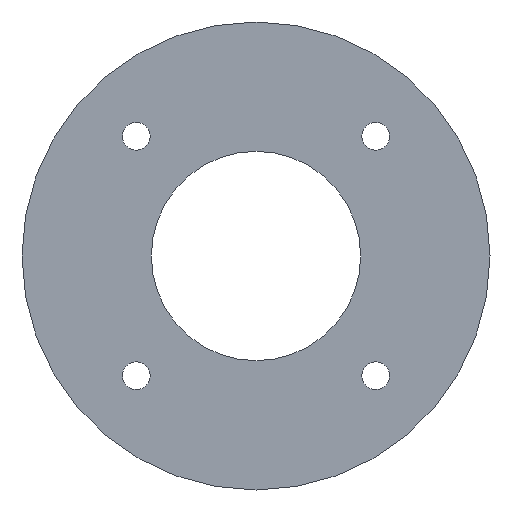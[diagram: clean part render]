
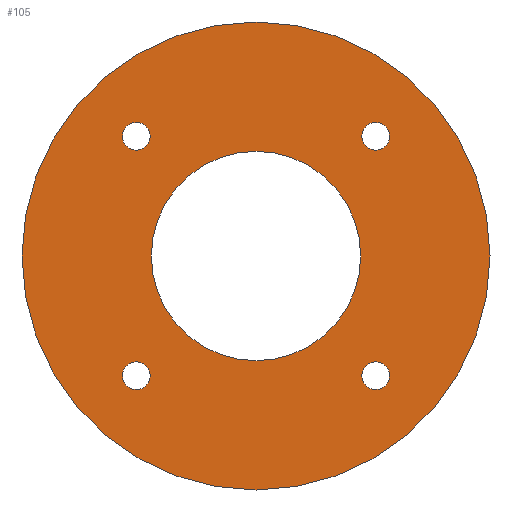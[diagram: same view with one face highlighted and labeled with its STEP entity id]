
A CAD part, left-side view. The second image highlights one B-rep face of the part: STEP entity #105.
In plain terms, the highlighted planar face has unit normal (-1, 0, 0).
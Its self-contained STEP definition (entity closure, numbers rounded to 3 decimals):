
#22 = VERTEX_POINT('',#23);
#23 = CARTESIAN_POINT('',(-7.5,76.,0.));
#32 = CYLINDRICAL_SURFACE('',#33,76.);
#33 = AXIS2_PLACEMENT_3D('',#34,#35,#36);
#34 = CARTESIAN_POINT('',(-7.5,0.,0.));
#35 = DIRECTION('',(-1.,-0.,-0.));
#36 = DIRECTION('',(0.,1.,0.));
#79 = EDGE_CURVE('',#22,#22,#80,.T.);
#80 = SURFACE_CURVE('',#81,(#86,#93),.PCURVE_S1.);
#81 = CIRCLE('',#82,76.);
#82 = AXIS2_PLACEMENT_3D('',#83,#84,#85);
#83 = CARTESIAN_POINT('',(-7.5,0.,0.));
#84 = DIRECTION('',(1.,0.,0.));
#85 = DIRECTION('',(0.,1.,0.));
#86 = PCURVE('',#32,#87);
#87 = DEFINITIONAL_REPRESENTATION('',(#88),#92);
#88 = LINE('',#89,#90);
#89 = CARTESIAN_POINT('',(-0.,0.));
#90 = VECTOR('',#91,1.);
#91 = DIRECTION('',(-1.,0.));
#92 = ( GEOMETRIC_REPRESENTATION_CONTEXT(2) 
PARAMETRIC_REPRESENTATION_CONTEXT() REPRESENTATION_CONTEXT('2D SPACE',''
  ) );
#93 = PCURVE('',#94,#99);
#94 = PLANE('',#95);
#95 = AXIS2_PLACEMENT_3D('',#96,#97,#98);
#96 = CARTESIAN_POINT('',(-7.5,0.,0.));
#97 = DIRECTION('',(1.,0.,0.));
#98 = DIRECTION('',(-0.,0.,1.));
#99 = DEFINITIONAL_REPRESENTATION('',(#100),#104);
#100 = CIRCLE('',#101,76.);
#101 = AXIS2_PLACEMENT_2D('',#102,#103);
#102 = CARTESIAN_POINT('',(0.,0.));
#103 = DIRECTION('',(0.,-1.));
#104 = ( GEOMETRIC_REPRESENTATION_CONTEXT(2) 
PARAMETRIC_REPRESENTATION_CONTEXT() REPRESENTATION_CONTEXT('2D SPACE',''
  ) );
#105 = ADVANCED_FACE('',(#106,#109,#144,#179,#210,#245),#94,.F.);
#106 = FACE_BOUND('',#107,.F.);
#107 = EDGE_LOOP('',(#108));
#108 = ORIENTED_EDGE('',*,*,#79,.T.);
#109 = FACE_BOUND('',#110,.F.);
#110 = EDGE_LOOP('',(#111));
#111 = ORIENTED_EDGE('',*,*,#112,.T.);
#112 = EDGE_CURVE('',#113,#113,#115,.T.);
#113 = VERTEX_POINT('',#114);
#114 = CARTESIAN_POINT('',(-7.5,43.391,-38.891));
#115 = SURFACE_CURVE('',#116,(#121,#132),.PCURVE_S1.);
#116 = CIRCLE('',#117,4.5);
#117 = AXIS2_PLACEMENT_3D('',#118,#119,#120);
#118 = CARTESIAN_POINT('',(-7.5,38.891,-38.891));
#119 = DIRECTION('',(-1.,0.,0.));
#120 = DIRECTION('',(0.,1.,0.));
#121 = PCURVE('',#94,#122);
#122 = DEFINITIONAL_REPRESENTATION('',(#123),#131);
#123 = ( BOUNDED_CURVE() B_SPLINE_CURVE(2,(#124,#125,#126,#127,#128,#129
,#130),.UNSPECIFIED.,.T.,.F.) B_SPLINE_CURVE_WITH_KNOTS((1,2,2,2,2,1),(
    -2.094,0.,2.094,4.189,6.283,
8.378),.UNSPECIFIED.) CURVE() GEOMETRIC_REPRESENTATION_ITEM() 
RATIONAL_B_SPLINE_CURVE((1.,0.5,1.,0.5,1.,0.5,1.)) REPRESENTATION_ITEM(
  '') );
#124 = CARTESIAN_POINT('',(-38.891,-43.391));
#125 = CARTESIAN_POINT('',(-46.685,-43.391));
#126 = CARTESIAN_POINT('',(-42.788,-36.641));
#127 = CARTESIAN_POINT('',(-38.891,-29.891));
#128 = CARTESIAN_POINT('',(-34.994,-36.641));
#129 = CARTESIAN_POINT('',(-31.097,-43.391));
#130 = CARTESIAN_POINT('',(-38.891,-43.391));
#131 = ( GEOMETRIC_REPRESENTATION_CONTEXT(2) 
PARAMETRIC_REPRESENTATION_CONTEXT() REPRESENTATION_CONTEXT('2D SPACE',''
  ) );
#132 = PCURVE('',#133,#138);
#133 = CYLINDRICAL_SURFACE('',#134,4.5);
#134 = AXIS2_PLACEMENT_3D('',#135,#136,#137);
#135 = CARTESIAN_POINT('',(-8.5,38.891,-38.891));
#136 = DIRECTION('',(-1.,-0.,-0.));
#137 = DIRECTION('',(0.,1.,0.));
#138 = DEFINITIONAL_REPRESENTATION('',(#139),#143);
#139 = LINE('',#140,#141);
#140 = CARTESIAN_POINT('',(-6.283,-1.));
#141 = VECTOR('',#142,1.);
#142 = DIRECTION('',(1.,-0.));
#143 = ( GEOMETRIC_REPRESENTATION_CONTEXT(2) 
PARAMETRIC_REPRESENTATION_CONTEXT() REPRESENTATION_CONTEXT('2D SPACE',''
  ) );
#144 = FACE_BOUND('',#145,.F.);
#145 = EDGE_LOOP('',(#146));
#146 = ORIENTED_EDGE('',*,*,#147,.T.);
#147 = EDGE_CURVE('',#148,#148,#150,.T.);
#148 = VERTEX_POINT('',#149);
#149 = CARTESIAN_POINT('',(-7.5,43.391,38.891));
#150 = SURFACE_CURVE('',#151,(#156,#167),.PCURVE_S1.);
#151 = CIRCLE('',#152,4.5);
#152 = AXIS2_PLACEMENT_3D('',#153,#154,#155);
#153 = CARTESIAN_POINT('',(-7.5,38.891,38.891));
#154 = DIRECTION('',(-1.,0.,0.));
#155 = DIRECTION('',(0.,1.,0.));
#156 = PCURVE('',#94,#157);
#157 = DEFINITIONAL_REPRESENTATION('',(#158),#166);
#158 = ( BOUNDED_CURVE() B_SPLINE_CURVE(2,(#159,#160,#161,#162,#163,#164
,#165),.UNSPECIFIED.,.T.,.F.) B_SPLINE_CURVE_WITH_KNOTS((1,2,2,2,2,1),(
    -2.094,0.,2.094,4.189,6.283,
8.378),.UNSPECIFIED.) CURVE() GEOMETRIC_REPRESENTATION_ITEM() 
RATIONAL_B_SPLINE_CURVE((1.,0.5,1.,0.5,1.,0.5,1.)) REPRESENTATION_ITEM(
  '') );
#159 = CARTESIAN_POINT('',(38.891,-43.391));
#160 = CARTESIAN_POINT('',(31.097,-43.391));
#161 = CARTESIAN_POINT('',(34.994,-36.641));
#162 = CARTESIAN_POINT('',(38.891,-29.891));
#163 = CARTESIAN_POINT('',(42.788,-36.641));
#164 = CARTESIAN_POINT('',(46.685,-43.391));
#165 = CARTESIAN_POINT('',(38.891,-43.391));
#166 = ( GEOMETRIC_REPRESENTATION_CONTEXT(2) 
PARAMETRIC_REPRESENTATION_CONTEXT() REPRESENTATION_CONTEXT('2D SPACE',''
  ) );
#167 = PCURVE('',#168,#173);
#168 = CYLINDRICAL_SURFACE('',#169,4.5);
#169 = AXIS2_PLACEMENT_3D('',#170,#171,#172);
#170 = CARTESIAN_POINT('',(-8.5,38.891,38.891));
#171 = DIRECTION('',(-1.,-0.,-0.));
#172 = DIRECTION('',(0.,1.,0.));
#173 = DEFINITIONAL_REPRESENTATION('',(#174),#178);
#174 = LINE('',#175,#176);
#175 = CARTESIAN_POINT('',(-6.283,-1.));
#176 = VECTOR('',#177,1.);
#177 = DIRECTION('',(1.,-0.));
#178 = ( GEOMETRIC_REPRESENTATION_CONTEXT(2) 
PARAMETRIC_REPRESENTATION_CONTEXT() REPRESENTATION_CONTEXT('2D SPACE',''
  ) );
#179 = FACE_BOUND('',#180,.F.);
#180 = EDGE_LOOP('',(#181));
#181 = ORIENTED_EDGE('',*,*,#182,.F.);
#182 = EDGE_CURVE('',#183,#183,#185,.T.);
#183 = VERTEX_POINT('',#184);
#184 = CARTESIAN_POINT('',(-7.5,34.,0.));
#185 = SURFACE_CURVE('',#186,(#191,#198),.PCURVE_S1.);
#186 = CIRCLE('',#187,34.);
#187 = AXIS2_PLACEMENT_3D('',#188,#189,#190);
#188 = CARTESIAN_POINT('',(-7.5,0.,0.));
#189 = DIRECTION('',(1.,0.,0.));
#190 = DIRECTION('',(0.,1.,0.));
#191 = PCURVE('',#94,#192);
#192 = DEFINITIONAL_REPRESENTATION('',(#193),#197);
#193 = CIRCLE('',#194,34.);
#194 = AXIS2_PLACEMENT_2D('',#195,#196);
#195 = CARTESIAN_POINT('',(0.,0.));
#196 = DIRECTION('',(0.,-1.));
#197 = ( GEOMETRIC_REPRESENTATION_CONTEXT(2) 
PARAMETRIC_REPRESENTATION_CONTEXT() REPRESENTATION_CONTEXT('2D SPACE',''
  ) );
#198 = PCURVE('',#199,#204);
#199 = CYLINDRICAL_SURFACE('',#200,34.);
#200 = AXIS2_PLACEMENT_3D('',#201,#202,#203);
#201 = CARTESIAN_POINT('',(-7.5,0.,0.));
#202 = DIRECTION('',(-1.,-0.,-0.));
#203 = DIRECTION('',(0.,1.,0.));
#204 = DEFINITIONAL_REPRESENTATION('',(#205),#209);
#205 = LINE('',#206,#207);
#206 = CARTESIAN_POINT('',(-0.,0.));
#207 = VECTOR('',#208,1.);
#208 = DIRECTION('',(-1.,0.));
#209 = ( GEOMETRIC_REPRESENTATION_CONTEXT(2) 
PARAMETRIC_REPRESENTATION_CONTEXT() REPRESENTATION_CONTEXT('2D SPACE',''
  ) );
#210 = FACE_BOUND('',#211,.F.);
#211 = EDGE_LOOP('',(#212));
#212 = ORIENTED_EDGE('',*,*,#213,.T.);
#213 = EDGE_CURVE('',#214,#214,#216,.T.);
#214 = VERTEX_POINT('',#215);
#215 = CARTESIAN_POINT('',(-7.5,-34.391,-38.891));
#216 = SURFACE_CURVE('',#217,(#222,#233),.PCURVE_S1.);
#217 = CIRCLE('',#218,4.5);
#218 = AXIS2_PLACEMENT_3D('',#219,#220,#221);
#219 = CARTESIAN_POINT('',(-7.5,-38.891,-38.891));
#220 = DIRECTION('',(-1.,0.,0.));
#221 = DIRECTION('',(0.,1.,0.));
#222 = PCURVE('',#94,#223);
#223 = DEFINITIONAL_REPRESENTATION('',(#224),#232);
#224 = ( BOUNDED_CURVE() B_SPLINE_CURVE(2,(#225,#226,#227,#228,#229,#230
,#231),.UNSPECIFIED.,.T.,.F.) B_SPLINE_CURVE_WITH_KNOTS((1,2,2,2,2,1),(
    -2.094,0.,2.094,4.189,6.283,
8.378),.UNSPECIFIED.) CURVE() GEOMETRIC_REPRESENTATION_ITEM() 
RATIONAL_B_SPLINE_CURVE((1.,0.5,1.,0.5,1.,0.5,1.)) REPRESENTATION_ITEM(
  '') );
#225 = CARTESIAN_POINT('',(-38.891,34.391));
#226 = CARTESIAN_POINT('',(-46.685,34.391));
#227 = CARTESIAN_POINT('',(-42.788,41.141));
#228 = CARTESIAN_POINT('',(-38.891,47.891));
#229 = CARTESIAN_POINT('',(-34.994,41.141));
#230 = CARTESIAN_POINT('',(-31.097,34.391));
#231 = CARTESIAN_POINT('',(-38.891,34.391));
#232 = ( GEOMETRIC_REPRESENTATION_CONTEXT(2) 
PARAMETRIC_REPRESENTATION_CONTEXT() REPRESENTATION_CONTEXT('2D SPACE',''
  ) );
#233 = PCURVE('',#234,#239);
#234 = CYLINDRICAL_SURFACE('',#235,4.5);
#235 = AXIS2_PLACEMENT_3D('',#236,#237,#238);
#236 = CARTESIAN_POINT('',(-8.5,-38.891,-38.891));
#237 = DIRECTION('',(-1.,-0.,-0.));
#238 = DIRECTION('',(0.,1.,0.));
#239 = DEFINITIONAL_REPRESENTATION('',(#240),#244);
#240 = LINE('',#241,#242);
#241 = CARTESIAN_POINT('',(-6.283,-1.));
#242 = VECTOR('',#243,1.);
#243 = DIRECTION('',(1.,-0.));
#244 = ( GEOMETRIC_REPRESENTATION_CONTEXT(2) 
PARAMETRIC_REPRESENTATION_CONTEXT() REPRESENTATION_CONTEXT('2D SPACE',''
  ) );
#245 = FACE_BOUND('',#246,.F.);
#246 = EDGE_LOOP('',(#247));
#247 = ORIENTED_EDGE('',*,*,#248,.T.);
#248 = EDGE_CURVE('',#249,#249,#251,.T.);
#249 = VERTEX_POINT('',#250);
#250 = CARTESIAN_POINT('',(-7.5,-34.391,38.891));
#251 = SURFACE_CURVE('',#252,(#257,#268),.PCURVE_S1.);
#252 = CIRCLE('',#253,4.5);
#253 = AXIS2_PLACEMENT_3D('',#254,#255,#256);
#254 = CARTESIAN_POINT('',(-7.5,-38.891,38.891));
#255 = DIRECTION('',(-1.,0.,0.));
#256 = DIRECTION('',(0.,1.,0.));
#257 = PCURVE('',#94,#258);
#258 = DEFINITIONAL_REPRESENTATION('',(#259),#267);
#259 = ( BOUNDED_CURVE() B_SPLINE_CURVE(2,(#260,#261,#262,#263,#264,#265
,#266),.UNSPECIFIED.,.T.,.F.) B_SPLINE_CURVE_WITH_KNOTS((1,2,2,2,2,1),(
    -2.094,0.,2.094,4.189,6.283,
8.378),.UNSPECIFIED.) CURVE() GEOMETRIC_REPRESENTATION_ITEM() 
RATIONAL_B_SPLINE_CURVE((1.,0.5,1.,0.5,1.,0.5,1.)) REPRESENTATION_ITEM(
  '') );
#260 = CARTESIAN_POINT('',(38.891,34.391));
#261 = CARTESIAN_POINT('',(31.097,34.391));
#262 = CARTESIAN_POINT('',(34.994,41.141));
#263 = CARTESIAN_POINT('',(38.891,47.891));
#264 = CARTESIAN_POINT('',(42.788,41.141));
#265 = CARTESIAN_POINT('',(46.685,34.391));
#266 = CARTESIAN_POINT('',(38.891,34.391));
#267 = ( GEOMETRIC_REPRESENTATION_CONTEXT(2) 
PARAMETRIC_REPRESENTATION_CONTEXT() REPRESENTATION_CONTEXT('2D SPACE',''
  ) );
#268 = PCURVE('',#269,#274);
#269 = CYLINDRICAL_SURFACE('',#270,4.5);
#270 = AXIS2_PLACEMENT_3D('',#271,#272,#273);
#271 = CARTESIAN_POINT('',(-8.5,-38.891,38.891));
#272 = DIRECTION('',(-1.,-0.,-0.));
#273 = DIRECTION('',(0.,1.,0.));
#274 = DEFINITIONAL_REPRESENTATION('',(#275),#279);
#275 = LINE('',#276,#277);
#276 = CARTESIAN_POINT('',(-6.283,-1.));
#277 = VECTOR('',#278,1.);
#278 = DIRECTION('',(1.,-0.));
#279 = ( GEOMETRIC_REPRESENTATION_CONTEXT(2) 
PARAMETRIC_REPRESENTATION_CONTEXT() REPRESENTATION_CONTEXT('2D SPACE',''
  ) );
